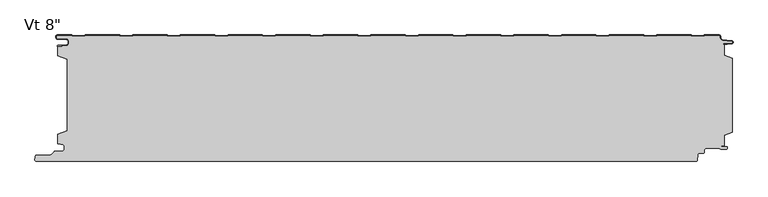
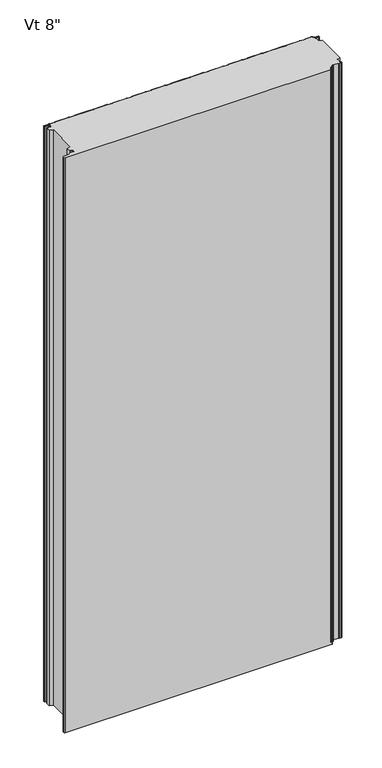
"""IFC4 building model written with IfcOpenShell, lengths in millimetres: plate geometry."""

from ifc_helpers import new_model, si_unit, point, frame, frame_2d, origin, origin_with_axes, place, context, project, spatial, polyline, circle_curve, trimmed, segment, composite_curve, outline, extrude, source, transform, mapped, element, save
from ifc_brep_helpers import plane_surface, cylinder_surface, revolved_surface, advanced_brep


def plate_d381e52e(model_context):
    return source(origin(), model_context, "Body", "SolidModel", [
        advanced_brep(
        [(-526.0754696, -175.1045169, 2400.0), (-522.7254697, -178.4545168, 2400.0), (-522.7254697, -182.8545166, 2400.0), (-526.0754696, -186.2045165, 2400.0), (-537.8863818, -186.2045165, 2400.0), (-539.0884633, -186.702435, 2400.0), (-543.8290223, -191.4429939, 2400.0), (-545.6674999, -192.2045163, 2400.0), (-566.6742572, -192.2045163, 2400.0), (-569.3639643, -194.6689835, 2400.0), (-569.7796495, -199.4159721, 2400.0), (-567.22876, -202.2, 2400.0), (487.6519047, -202.2, 2400.0), (489.5344274, -200.4750281, 2400.0), (490.2810225, -191.9438082, 2400.0), (490.8950589, -190.3647769, 2400.0), (493.2848524, -189.1909787, 2400.0), (498.6449659, -189.1909787, 2400.0), (500.4449659, -187.3909787, 2400.0), (500.4449659, -185.100418, 2400.0), (504.4449659, -181.100418, 2400.0), (523.9824407, -181.100418, 2400.0), (525.9423153, -181.9919416, 2400.0), (526.8881383, -183.0769402, 2400.0), (535.7430969, -182.7263694, 2400.0), (535.7400007, -178.5257796, 2400.0), (527.7295248, -178.0370324, 2400.0), (527.790425, -177.0388885, 2400.0), (532.327531, -177.3157133, 2400.0), (532.327531, -160.4948412, 2400.0), (545.5274637, -155.3615374, 2400.0), (545.5274637, -37.6469837, 2400.0), (532.327531, -32.5136753, 2400.0), (532.327531, -15.2947081, 2400.0), (530.7283, -15.4069152, 2400.0), (530.6583089, -14.4093676, 2400.0), (544.1268009, -13.4643757, 2400.0), (544.183689, -10.0073134, 2400.0), (529.6309436, -8.4976379, 2400.0), (525.6580508, -4.0912842, 2400.0), (525.6580508, -2.3999791, 2400.0), (524.2580508, -0.9999791, 2400.0), (501.3726136, -0.9999791, 2400.0), (500.172362, -2.2002307, 2400.0), (480.5369023, -2.2002307, 2400.0), (479.3366715, -1.0, 2400.0), (425.1891835, -1.0, 2400.0), (423.9889528, -2.2002307, 2400.0), (404.353493, -2.2002307, 2400.0), (403.1532623, -1.0, 2400.0), (349.0057743, -1.0, 2400.0), (347.8055436, -2.2002307, 2400.0), (328.1700838, -2.2002307, 2400.0), (326.9698531, -1.0, 2400.0), (272.8223651, -1.0, 2400.0), (271.6221343, -2.2002307, 2400.0), (251.9866746, -2.2002307, 2400.0), (250.7864439, -1.0, 2400.0), (196.6225175, -1.0, 2400.0), (195.4222867, -2.2002307, 2400.0), (175.786827, -2.2002307, 2400.0), (174.5865963, -1.0, 2400.0), (120.4391082, -1.0, 2400.0), (119.2388775, -2.2002307, 2400.0), (99.6034178, -2.2002307, 2400.0), (98.403187, -1.0, 2400.0), (44.255699, -1.0, 2400.0), (43.0554683, -2.2002307, 2400.0), (23.4200086, -2.2002307, 2400.0), (22.2197778, -1.0, 2400.0), (-31.9441486, -1.0, 2400.0), (-33.1443793, -2.2002307, 2400.0), (-52.779839, -2.2002307, 2400.0), (-53.9800698, -1.0, 2400.0), (-108.1275578, -1.0, 2400.0), (-109.3277885, -2.2002307, 2400.0), (-128.9632483, -2.2002307, 2400.0), (-130.163479, -1.0, 2400.0), (-184.310967, -1.0, 2400.0), (-185.5111978, -2.2002307, 2400.0), (-205.1466575, -2.2002307, 2400.0), (-206.3468882, -1.0, 2400.0), (-260.5108146, -1.0, 2400.0), (-261.7110454, -2.2002307, 2400.0), (-281.3465051, -2.2002307, 2400.0), (-282.5467358, -1.0, 2400.0), (-336.6942238, -1.0, 2400.0), (-337.8944546, -2.2002307, 2400.0), (-357.5299143, -2.2002307, 2400.0), (-358.730145, -1.0, 2400.0), (-412.8776331, -1.0, 2400.0), (-414.0778638, -2.2002307, 2400.0), (-433.7133235, -2.2002307, 2400.0), (-434.9135543, -1.0, 2400.0), (-489.0774807, -1.0, 2400.0), (-490.2777114, -2.2002307, 2400.0), (-509.9131711, -2.2002307, 2400.0), (-511.1133915, -1.0000103, 2400.0), (-533.7839771, -1.0000103, 2400.0), (-535.248695, -2.3984828, 2400.0), (-535.248695, -3.9515996, 2400.0), (-533.0386397, -6.1616549, 2400.0), (-519.5094117, -6.1616549, 2400.0), (-515.7894255, -9.881641, 2400.0), (-515.7894255, -13.5282389, 2400.0), (-519.5094219, -17.2482353, 2400.0), (-525.8545399, -17.2482353, 2400.0), (-525.6919341, -18.1704184, 2400.0), (-531.9454632, -19.2730843, 2400.0), (-533.4000002, -18.7244571, 2400.0), (-533.4000002, -33.5050578, 2400.0), (-518.4020469, -39.1301019, 2400.0), (-518.3882813, -153.3686066, 2400.0), (-533.4000002, -158.9928342, 2400.0), (-533.4000002, -174.0748213, 2400.0), (-532.5329867, -173.7060333, 2400.0), (-528.774586, -173.7060333, 2400.0), (-528.774586, -175.1045169, 2400.0), (-526.0754696, -175.1045169, 0.0), (-528.774586, -175.1045169, 0.0), (-528.774586, -173.7060333, 0.0), (-532.5329867, -173.7060333, 0.0), (-533.4000002, -174.0748213, 0.0), (-533.4000002, -158.9928342, 0.0), (-518.4020469, -153.3686066, 0.0), (-518.3882813, -39.1301019, 0.0), (-533.4000002, -33.5050578, 0.0), (-533.4000002, -18.7244571, 0.0), (-531.9454632, -19.2730843, 0.0), (-525.6919341, -18.1704184, 0.0), (-525.8545399, -17.2482353, 0.0), (-519.5094219, -17.2482353, 0.0), (-515.7894255, -13.5282389, 0.0), (-515.7894255, -9.881641, 0.0), (-519.5094117, -6.1616549, 0.0), (-533.0386397, -6.1616549, 0.0), (-535.2486951, -3.9515996, 0.0), (-535.248695, -2.3984828, 0.0), (-533.7839771, -1.0000103, 0.0), (-511.1133915, -1.0000103, 0.0), (-509.9131711, -2.2002307, 0.0), (-490.2777114, -2.2002307, 0.0), (-489.0774807, -1.0, 0.0), (-434.9135543, -1.0, 0.0), (-433.7133235, -2.2002307, 0.0), (-414.0778638, -2.2002307, 0.0), (-412.8776331, -1.0, 0.0), (-358.730145, -1.0, 0.0), (-357.5299143, -2.2002307, 0.0), (-337.8944546, -2.2002307, 0.0), (-336.6942238, -1.0, 0.0), (-282.5467358, -1.0, 0.0), (-281.3465051, -2.2002307, 0.0), (-261.7110454, -2.2002307, 0.0), (-260.5108146, -1.0, 0.0), (-206.3468882, -1.0, 0.0), (-205.1466575, -2.2002307, 0.0), (-185.5111978, -2.2002307, 0.0), (-184.310967, -1.0, 0.0), (-130.163479, -1.0, 0.0), (-128.9632483, -2.2002307, 0.0), (-109.3277885, -2.2002307, 0.0), (-108.1275578, -1.0, 0.0), (-53.9800698, -1.0, 0.0), (-52.779839, -2.2002307, 0.0), (-33.1443793, -2.2002307, 0.0), (-31.9441486, -1.0, 0.0), (22.2197778, -1.0, 0.0), (23.4200086, -2.2002307, 0.0), (43.0554683, -2.2002307, 0.0), (44.255699, -1.0, 0.0), (98.403187, -1.0, 0.0), (99.6034178, -2.2002307, 0.0), (119.2388775, -2.2002307, 0.0), (120.4391082, -1.0, 0.0), (174.5865963, -1.0, 0.0), (175.786827, -2.2002307, 0.0), (195.4222867, -2.2002307, 0.0), (196.6225175, -1.0, 0.0), (250.7864439, -1.0, 0.0), (251.9866746, -2.2002307, 0.0), (271.6221343, -2.2002307, 0.0), (272.8223651, -1.0, 0.0), (326.9698531, -1.0, 0.0), (328.1700838, -2.2002307, 0.0), (347.8055436, -2.2002307, 0.0), (349.0057743, -1.0, 0.0), (403.1532623, -1.0, 0.0), (404.353493, -2.2002307, 0.0), (423.9889528, -2.2002307, 0.0), (425.1891835, -1.0, 0.0), (479.3366715, -1.0, 0.0), (480.5369023, -2.2002307, 0.0), (500.172362, -2.2002307, 0.0), (501.3726136, -0.9999791, 0.0), (524.2580508, -0.9999791, 0.0), (525.6580508, -2.3999791, 0.0), (525.6580508, -4.0912842, 0.0), (529.6309436, -8.4976379, 0.0), (544.183689, -10.0073134, 0.0), (544.1268009, -13.4643757, 0.0), (530.6583089, -14.4093676, 0.0), (530.7283, -15.4069152, 0.0), (532.327531, -15.2947081, 0.0), (532.327531, -32.5136753, 0.0), (545.5274637, -37.6469837, 0.0), (545.5274637, -155.3615374, 0.0), (532.327531, -160.4948412, 0.0), (532.327531, -177.3157133, 0.0), (527.790425, -177.0388885, 0.0), (527.7295248, -178.0370324, 0.0), (535.7400007, -178.5257796, 0.0), (535.7430969, -182.7263694, 0.0), (526.8881383, -183.0769402, 0.0), (525.9423153, -181.9919416, 0.0), (523.9824407, -181.100418, 0.0), (504.4449659, -181.100418, 0.0), (500.4449659, -185.100418, 0.0), (500.4449659, -187.3909787, 0.0), (498.6449659, -189.1909787, 0.0), (493.2848524, -189.1909787, 0.0), (490.8950589, -190.3647769, 0.0), (490.2810225, -191.9438082, 0.0), (489.5344274, -200.4750281, 0.0), (487.6519047, -202.2, 0.0), (-567.22876, -202.2, 0.0), (-569.7796495, -199.4159721, 0.0), (-569.3639643, -194.6689835, 0.0), (-566.6742572, -192.2045163, 0.0), (-545.6674999, -192.2045163, 0.0), (-543.8290223, -191.4429939, 0.0), (-539.0884633, -186.702435, 0.0), (-537.8863818, -186.2045165, 0.0), (-526.0754696, -186.2045165, 0.0), (-522.7254697, -182.8545166, 0.0), (-522.7254697, -178.4545168, 0.0)],
        [
            (0, 1, circle_curve(frame((-526.0754696, -178.4545168, 2400.0), z_axis=(0.0, 0.0, -1.0), x_axis=(-1.0, 0.0, 0.0)), 3.3499999)),
            (1, 2),
            (2, 3, circle_curve(frame((-526.0754696, -182.8545166, 2400.0), z_axis=(0.0, 0.0, -1.0), x_axis=(-1.0, 0.0, 0.0)), 3.3499999)),
            (3, 4),
            (4, 5, circle_curve(frame((-537.8863818, -187.9045165, 2400.0), z_axis=(0.0, 0.0, 1.0), x_axis=(-1.0, 0.0, 0.0)), 1.7)),
            (5, 6),
            (6, 7, circle_curve(frame((-545.6674999, -189.6045163, 2400.0), z_axis=(0.0, 0.0, -1.0), x_axis=(-1.0, 0.0, 0.0)), 2.6)),
            (7, 8),
            (8, 9, circle_curve(frame((-566.6742572, -194.9045163, 2400.0), z_axis=(0.0, 0.0, 1.0), x_axis=(-1.0, 0.0, 0.0)), 2.7)),
            (9, 10),
            (10, 11, circle_curve(frame((-567.22876, -199.6393488, 2400.0), z_axis=(0.0, 0.0, 1.0), x_axis=(-1.0, 0.0, 0.0)), 2.5606512)),
            (11, 12),
            (12, 13, circle_curve(frame((487.6519047, -200.3102824, 2400.0), z_axis=(0.0, 0.0, 1.0), x_axis=(-1.0, 0.0, 0.0)), 1.8897176)),
            (13, 14),
            (14, 15, circle_curve(frame((493.2970771, -192.2077531, 2400.0), z_axis=(0.0, 0.0, -1.0), x_axis=(-1.0, 0.0, 0.0)), 3.027582)),
            (15, 16, circle_curve(frame((493.2751942, -192.1909631, 2400.0), z_axis=(0.0, 0.0, -1.0), x_axis=(-1.0, 0.0, 0.0)), 3.0)),
            (16, 17),
            (17, 18, circle_curve(frame((498.6449659, -187.3909787, 2400.0), z_axis=(0.0, 0.0, 1.0), x_axis=(-1.0, 0.0, 0.0)), 1.8)),
            (18, 19),
            (19, 20, circle_curve(frame((504.4449659, -185.100418, 2400.0), z_axis=(0.0, 0.0, -1.0), x_axis=(-1.0, 0.0, 0.0)), 4.0)),
            (20, 21),
            (21, 22, circle_curve(frame((523.9824407, -183.700418, 2400.0), z_axis=(0.0, 0.0, -1.0), x_axis=(-1.0, 0.0, 0.0)), 2.6)),
            (22, 23),
            (23, 24),
            (24, 25, circle_curve(frame((535.6599479, -180.6261346, 2400.0), z_axis=(0.0, 0.0, 1.0), x_axis=(-1.0, 0.0, 0.0)), 2.10188)),
            (25, 26),
            (26, 27),
            (27, 28),
            (28, 29),
            (29, 30),
            (30, 31),
            (31, 32),
            (32, 33),
            (33, 34),
            (34, 35),
            (35, 36),
            (36, 37, circle_curve(frame((544.0116441, -11.7334815, 2400.0), z_axis=(0.0, 0.0, 1.0), x_axis=(-1.0, 0.0, 0.0)), 1.7347206)),
            (37, 38),
            (38, 39, circle_curve(frame((530.0880508, -4.0912842, 2400.0), z_axis=(0.0, 0.0, -1.0), x_axis=(-1.0, 0.0, 0.0)), 4.43)),
            (39, 40),
            (40, 41, circle_curve(frame((524.2580508, -2.3999791, 2400.0), z_axis=(0.0, 0.0, 1.0), x_axis=(-1.0, 0.0, 0.0)), 1.4)),
            (41, 42),
            (42, 43),
            (43, 44),
            (44, 45),
            (45, 46),
            (46, 47),
            (47, 48),
            (48, 49),
            (49, 50),
            (50, 51),
            (51, 52),
            (52, 53),
            (53, 54),
            (54, 55),
            (55, 56),
            (56, 57),
            (57, 58),
            (58, 59),
            (59, 60),
            (60, 61),
            (61, 62),
            (62, 63),
            (63, 64),
            (64, 65),
            (65, 66),
            (66, 67),
            (67, 68),
            (68, 69),
            (69, 70),
            (70, 71),
            (71, 72),
            (72, 73),
            (73, 74),
            (74, 75),
            (75, 76),
            (76, 77),
            (77, 78),
            (78, 79),
            (79, 80),
            (80, 81),
            (81, 82),
            (82, 83),
            (83, 84),
            (84, 85),
            (85, 86),
            (86, 87),
            (87, 88),
            (88, 89),
            (89, 90),
            (90, 91),
            (91, 92),
            (92, 93),
            (93, 94),
            (94, 95),
            (95, 96),
            (96, 97),
            (97, 98),
            (98, 99, circle_curve(frame((-533.8487245, -2.3984828, 2400.0), z_axis=(0.0, 0.0, 1.0), x_axis=(-1.0, 0.0, 0.0)), 1.3999705)),
            (99, 100),
            (100, 101, circle_curve(frame((-533.0386397, -3.9515996, 2400.0), z_axis=(0.0, 0.0, 1.0), x_axis=(-1.0, 0.0, 0.0)), 2.2100553)),
            (101, 102),
            (102, 103, circle_curve(frame((-519.5094117, -9.881641, 2400.0), z_axis=(0.0, 0.0, -1.0), x_axis=(-1.0, 0.0, 0.0)), 3.7199861)),
            (103, 104),
            (104, 105, circle_curve(frame((-519.5094219, -13.5282389, 2400.0), z_axis=(0.0, 0.0, -1.0), x_axis=(-1.0, 0.0, 0.0)), 3.7199964)),
            (105, 106),
            (106, 107),
            (107, 108),
            (108, 109, circle_curve(frame((-532.2101032, -17.7722363, 2400.0), z_axis=(0.0, 0.0, -1.0), x_axis=(-1.0, 0.0, 0.0)), 1.524001)),
            (109, 110),
            (110, 111),
            (111, 112),
            (112, 113),
            (113, 114),
            (114, 115, circle_curve(frame((-532.5345014, -174.9060323, 2400.0), z_axis=(0.0, 0.0, -1.0), x_axis=(-1.0, 0.0, 0.0)), 1.2)),
            (115, 116),
            (116, 117),
            (117, 0),
            (118, 119),
            (119, 120),
            (120, 121),
            (121, 122, circle_curve(frame((-532.5345014, -174.9060323, 0.0), z_axis=(0.0, 0.0, 1.0), x_axis=(-1.0, 0.0, 0.0)), 1.2)),
            (122, 123),
            (123, 124),
            (124, 125),
            (125, 126),
            (126, 127),
            (127, 128, circle_curve(frame((-532.2101032, -17.7722363, 0.0), z_axis=(0.0, 0.0, 1.0), x_axis=(-1.0, 0.0, 0.0)), 1.524001)),
            (128, 129),
            (129, 130),
            (130, 131),
            (131, 132, circle_curve(frame((-519.5094219, -13.5282389, 0.0), z_axis=(0.0, 0.0, 1.0), x_axis=(-1.0, 0.0, 0.0)), 3.7199964)),
            (132, 133),
            (133, 134, circle_curve(frame((-519.5094117, -9.881641, 0.0), z_axis=(0.0, 0.0, 1.0), x_axis=(-1.0, 0.0, 0.0)), 3.7199861)),
            (134, 135),
            (135, 136, circle_curve(frame((-533.0386397, -3.9515996, 0.0), z_axis=(0.0, 0.0, -1.0), x_axis=(-1.0, 0.0, 0.0)), 2.2100553)),
            (136, 137),
            (137, 138, circle_curve(frame((-533.8487245, -2.3984828, 0.0), z_axis=(0.0, 0.0, -1.0), x_axis=(-1.0, 0.0, 0.0)), 1.3999705)),
            (138, 139),
            (139, 140),
            (140, 141),
            (141, 142),
            (142, 143),
            (143, 144),
            (144, 145),
            (145, 146),
            (146, 147),
            (147, 148),
            (148, 149),
            (149, 150),
            (150, 151),
            (151, 152),
            (152, 153),
            (153, 154),
            (154, 155),
            (155, 156),
            (156, 157),
            (157, 158),
            (158, 159),
            (159, 160),
            (160, 161),
            (161, 162),
            (162, 163),
            (163, 164),
            (164, 165),
            (165, 166),
            (166, 167),
            (167, 168),
            (168, 169),
            (169, 170),
            (170, 171),
            (171, 172),
            (172, 173),
            (173, 174),
            (174, 175),
            (175, 176),
            (176, 177),
            (177, 178),
            (178, 179),
            (179, 180),
            (180, 181),
            (181, 182),
            (182, 183),
            (183, 184),
            (184, 185),
            (185, 186),
            (186, 187),
            (187, 188),
            (188, 189),
            (189, 190),
            (190, 191),
            (191, 192),
            (192, 193),
            (193, 194),
            (194, 195),
            (195, 196, circle_curve(frame((524.2580508, -2.3999791, 0.0), z_axis=(0.0, 0.0, -1.0), x_axis=(-1.0, 0.0, 0.0)), 1.4)),
            (196, 197),
            (197, 198, circle_curve(frame((530.0880508, -4.0912842, 0.0), z_axis=(0.0, 0.0, 1.0), x_axis=(-1.0, 0.0, 0.0)), 4.43)),
            (198, 199),
            (199, 200, circle_curve(frame((544.0116441, -11.7334815, 0.0), z_axis=(0.0, 0.0, -1.0), x_axis=(-1.0, 0.0, 0.0)), 1.7347206)),
            (200, 201),
            (201, 202),
            (202, 203),
            (203, 204),
            (204, 205),
            (205, 206),
            (206, 207),
            (207, 208),
            (208, 209),
            (209, 210),
            (210, 211),
            (211, 212, circle_curve(frame((535.6599479, -180.6261346, 0.0), z_axis=(0.0, 0.0, -1.0), x_axis=(-1.0, 0.0, 0.0)), 2.10188)),
            (212, 213),
            (213, 214),
            (214, 215, circle_curve(frame((523.9824407, -183.700418, 0.0), z_axis=(0.0, 0.0, 1.0), x_axis=(-1.0, 0.0, 0.0)), 2.6)),
            (215, 216),
            (216, 217, circle_curve(frame((504.4449659, -185.100418, 0.0), z_axis=(0.0, 0.0, 1.0), x_axis=(-1.0, 0.0, 0.0)), 4.0)),
            (217, 218),
            (218, 219, circle_curve(frame((498.6449659, -187.3909787, 0.0), z_axis=(0.0, 0.0, -1.0), x_axis=(-1.0, 0.0, 0.0)), 1.8)),
            (219, 220),
            (220, 221, circle_curve(frame((493.2751942, -192.1909631, 0.0), z_axis=(0.0, 0.0, 1.0), x_axis=(-1.0, 0.0, 0.0)), 3.0)),
            (221, 222, circle_curve(frame((493.2970771, -192.2077531, 0.0), z_axis=(0.0, 0.0, 1.0), x_axis=(-1.0, 0.0, 0.0)), 3.027582)),
            (222, 223),
            (223, 224, circle_curve(frame((487.6519047, -200.3102824, 0.0), z_axis=(0.0, 0.0, -1.0), x_axis=(-1.0, 0.0, 0.0)), 1.8897176)),
            (224, 225),
            (225, 226, circle_curve(frame((-567.22876, -199.6393488, 0.0), z_axis=(0.0, 0.0, -1.0), x_axis=(-1.0, 0.0, 0.0)), 2.5606512)),
            (226, 227),
            (227, 228, circle_curve(frame((-566.6742572, -194.9045163, 0.0), z_axis=(0.0, 0.0, -1.0), x_axis=(-1.0, 0.0, 0.0)), 2.7)),
            (228, 229),
            (229, 230, circle_curve(frame((-545.6674999, -189.6045163, 0.0), z_axis=(0.0, 0.0, 1.0), x_axis=(-1.0, 0.0, 0.0)), 2.6)),
            (230, 231),
            (231, 232, circle_curve(frame((-537.8863818, -187.9045165, 0.0), z_axis=(0.0, 0.0, -1.0), x_axis=(-1.0, 0.0, 0.0)), 1.7)),
            (232, 233),
            (233, 234, circle_curve(frame((-526.0754696, -182.8545166, 0.0), z_axis=(0.0, 0.0, 1.0), x_axis=(-1.0, 0.0, 0.0)), 3.3499999)),
            (234, 235),
            (235, 118, circle_curve(frame((-526.0754696, -178.4545168, 0.0), z_axis=(0.0, 0.0, 1.0), x_axis=(-1.0, 0.0, 0.0)), 3.3499999)),
            (28, 208),
            (207, 29),
            (30, 206),
            (205, 31),
            (112, 124),
            (123, 113),
            (122, 114),
            (2, 234),
            (233, 3),
            (1, 235),
            (232, 4),
            (231, 5),
            (6, 230),
            (229, 7),
            (228, 8),
            (227, 9),
            (10, 226),
            (225, 11),
            (224, 12),
            (223, 13),
            (14, 222),
            (221, 15),
            (220, 16),
            (219, 17),
            (18, 218),
            (217, 19),
            (216, 20),
            (215, 21),
            (22, 214),
            (213, 23),
            (212, 24),
            (211, 25),
            (26, 210),
            (209, 27),
            (121, 115),
            (116, 120),
            (119, 117),
            (118, 0),
            (102, 134),
            (133, 103),
            (101, 135),
            (100, 136),
            (99, 137),
            (98, 138),
            (97, 139),
            (96, 140),
            (95, 141),
            (94, 142),
            (93, 143),
            (92, 144),
            (91, 145),
            (90, 146),
            (89, 147),
            (88, 148),
            (87, 149),
            (86, 150),
            (85, 151),
            (84, 152),
            (83, 153),
            (82, 154),
            (81, 155),
            (80, 156),
            (79, 157),
            (78, 158),
            (77, 159),
            (76, 160),
            (75, 161),
            (74, 162),
            (73, 163),
            (72, 164),
            (71, 165),
            (70, 166),
            (69, 167),
            (68, 168),
            (67, 169),
            (66, 170),
            (65, 171),
            (64, 172),
            (63, 173),
            (62, 174),
            (61, 175),
            (60, 176),
            (59, 177),
            (58, 178),
            (57, 179),
            (56, 180),
            (55, 181),
            (54, 182),
            (53, 183),
            (52, 184),
            (51, 185),
            (50, 186),
            (49, 187),
            (48, 188),
            (47, 189),
            (46, 190),
            (45, 191),
            (44, 192),
            (43, 193),
            (42, 194),
            (41, 195),
            (40, 196),
            (39, 197),
            (38, 198),
            (37, 199),
            (36, 200),
            (35, 201),
            (34, 202),
            (33, 203),
            (32, 204),
            (110, 126),
            (125, 111),
            (109, 127),
            (108, 128),
            (107, 129),
            (106, 130),
            (105, 131),
            (104, 132),
        ],
        [
            plane_surface(frame((-0.5362346, -202.2, 2400.0), z_axis=(0.0, 0.0, 1.0), x_axis=(0.0, -1.0, 0.0))),
            plane_surface(frame((-0.5362346, -202.2, 0.0), z_axis=(0.0, 0.0, -1.0), x_axis=(0.0, -1.0, 0.0))),
            plane_surface(frame((532.327531, -160.4948412, 2400.0), z_axis=(1.0, 0.0, 0.0), x_axis=(0.0, 0.0, -1.0))),
            plane_surface(frame((545.5274637, -153.3686066, 2400.0), z_axis=(1.0, 0.0, 0.0), x_axis=(0.0, 0.0, -1.0))),
            plane_surface(frame((545.5274637, -155.3615374, 2400.0), z_axis=(0.36244605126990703, -0.9320047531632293, 0.0), x_axis=(0.0, 0.0, -1.0))),
            plane_surface(frame((-533.4000002, -158.9928342, 2400.0), z_axis=(-0.3511231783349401, 0.9363292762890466, 0.0), x_axis=(0.0, 0.0, -1.0))),
            plane_surface(frame((-533.4000002, -174.0748213, 2400.0), z_axis=(-1.0, 0.0, 0.0), x_axis=(0.0, 0.0, -1.0))),
            revolved_surface(polyline([(-529.4254695, -182.8545166, 0.0), (-529.4254695, -182.8545166, 2400.0)]), (-526.0754696, -182.8545166, 2400.0), (0.0, 0.0, -1.0)),
            plane_surface(frame((-522.7254697, -182.8545166, 2400.0), z_axis=(-1.0, 0.0, 0.0), x_axis=(0.0, 0.0, -1.0))),
            plane_surface(frame((-537.8863818, -186.2045165, 2400.0), z_axis=(0.0, 1.0, 0.0), x_axis=(0.0, 0.0, -1.0))),
            cylinder_surface(frame((-537.8863818, -187.9045165, 2400.0), z_axis=(0.0, 0.0, 1.0), x_axis=(-1.0, 0.0, 0.0)), 1.7),
            revolved_surface(polyline([(-548.2674999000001, -189.6045163, 0.0), (-548.2674999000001, -189.6045163, 2400.0)]), (-545.6674999, -189.6045163, 2400.0), (0.0, 0.0, -1.0)),
            plane_surface(frame((-543.8290223, -191.4429939, 2400.0), z_axis=(-0.7071067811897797, 0.7071067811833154, 0.0), x_axis=(0.0, 0.0, -1.0))),
            plane_surface(frame((-566.6742572, -192.2045163, 2400.0), z_axis=(0.0, 1.0, 0.0), x_axis=(0.0, 0.0, -1.0))),
            cylinder_surface(frame((-566.6742572, -194.9045163, 2400.0), z_axis=(0.0, 0.0, 1.0), x_axis=(-1.0, 0.0, 0.0)), 2.7),
            cylinder_surface(frame((-567.22876, -199.6393488, 2400.0), z_axis=(0.0, 0.0, 1.0), x_axis=(-1.0, 0.0, 0.0)), 2.5606512),
            plane_surface(frame((-569.7796495, -199.4159721, 2400.0), z_axis=(-0.9961878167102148, 0.08723436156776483, 0.0), x_axis=(0.0, 0.0, -1.0))),
            plane_surface(frame((487.6519047, -202.2, 2400.0), z_axis=(0.0, -1.0, 0.0), x_axis=(0.0, 0.0, -1.0))),
            cylinder_surface(frame((487.6519047, -200.3102824, 2400.0), z_axis=(0.0, 0.0, 1.0), x_axis=(-1.0, 0.0, 0.0)), 1.8897176),
            revolved_surface(polyline([(490.26949510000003, -192.2077531, 0.0), (490.26949510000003, -192.2077531, 2400.0)]), (493.2970771, -192.2077531, 2400.0), (0.0, 0.0, -1.0)),
            plane_surface(frame((490.2810225, -191.9438082, 2400.0), z_axis=(0.9961925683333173, -0.08718008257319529, 0.0), x_axis=(0.0, 0.0, -1.0))),
            revolved_surface(polyline([(490.2751942, -192.1909631, 0.0), (490.2751942, -192.1909631, 2400.0)]), (493.2751942, -192.1909631, 2400.0), (0.0, 0.0, -1.0)),
            plane_surface(frame((498.6449659, -189.1909787, 2400.0), z_axis=(0.0, -1.0, 0.0), x_axis=(0.0, 0.0, -1.0))),
            plane_surface(frame((500.4449659, -185.100418, 2400.0), z_axis=(1.0, 0.0, 0.0), x_axis=(0.0, 0.0, -1.0))),
            cylinder_surface(frame((498.6449659, -187.3909787, 2400.0), z_axis=(0.0, 0.0, 1.0), x_axis=(-1.0, 0.0, 0.0)), 1.8),
            revolved_surface(polyline([(500.4449659, -185.100418, 0.0), (500.4449659, -185.100418, 2400.0)]), (504.4449659, -185.100418, 2400.0), (0.0, 0.0, -1.0)),
            plane_surface(frame((523.9824407, -181.100418, 2400.0), z_axis=(0.0, -1.0, 0.0), x_axis=(0.0, 0.0, -1.0))),
            plane_surface(frame((526.8881383, -183.0769402, 2400.0), z_axis=(-0.7537979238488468, -0.6571063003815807, 0.0), x_axis=(0.0, 0.0, -1.0))),
            revolved_surface(polyline([(521.3824407, -183.700418, 0.0), (521.3824407, -183.700418, 2400.0)]), (523.9824407, -183.700418, 2400.0), (0.0, 0.0, -1.0)),
            plane_surface(frame((535.7430969, -182.7263694, 2400.0), z_axis=(0.039559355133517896, -0.9992172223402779, 0.0), x_axis=(0.0, 0.0, -1.0))),
            cylinder_surface(frame((535.6599479, -180.6261346, 2400.0), z_axis=(0.0, 0.0, 1.0), x_axis=(-1.0, 0.0, 0.0)), 2.10188),
            plane_surface(frame((527.790425, -177.0388885, 2400.0), z_axis=(0.9981438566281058, -0.06090025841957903, 0.0), x_axis=(0.0, 0.0, -1.0))),
            plane_surface(frame((527.7295248, -178.0370324, 2400.0), z_axis=(0.06090025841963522, 0.9981438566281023, 0.0), x_axis=(0.0, 0.0, -1.0))),
            plane_surface(frame((532.327531, -177.3157133, 2400.0), z_axis=(-0.06090025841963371, -0.9981438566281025, 0.0), x_axis=(0.0, 0.0, -1.0))),
            revolved_surface(polyline([(-533.7345014, -174.9060323, 0.0), (-533.7345014, -174.9060323, 2400.0)]), (-532.5345014, -174.9060323, 2400.0), (0.0, 0.0, -1.0)),
            plane_surface(frame((-528.774586, -175.1045169, 2400.0), z_axis=(-1.0, 0.0, 0.0), x_axis=(0.0, 0.0, -1.0))),
            plane_surface(frame((-528.774586, -173.7060333, 2400.0), z_axis=(0.0, -1.0, 0.0), x_axis=(0.0, 0.0, -1.0))),
            plane_surface(frame((-526.0754696, -175.1045169, 2400.0), z_axis=(0.0, -1.0, 0.0), x_axis=(0.0, 0.0, -1.0))),
            revolved_surface(polyline([(-529.4254695, -178.4545168, 0.0), (-529.4254695, -178.4545168, 2400.0)]), (-526.0754696, -178.4545168, 2400.0), (0.0, 0.0, -1.0)),
            revolved_surface(polyline([(-523.2293978, -9.881641, 0.0), (-523.2293978, -9.881641, 2400.0)]), (-519.5094117, -9.881641, 2400.0), (0.0, 0.0, -1.0)),
            plane_surface(frame((-519.5094117, -6.1616549, 2400.0), z_axis=(0.0, -1.0, 0.0), x_axis=(0.0, 0.0, -1.0))),
            cylinder_surface(frame((-533.0386397, -3.9515996, 2400.0), z_axis=(0.0, 0.0, 1.0), x_axis=(-1.0, 0.0, 0.0)), 2.2100553),
            plane_surface(frame((-535.248695, -3.9515996, 2400.0), z_axis=(-1.0, 0.0, 0.0), x_axis=(0.0, 0.0, -1.0))),
            cylinder_surface(frame((-533.8487245, -2.3984828, 2400.0), z_axis=(0.0, 0.0, 1.0), x_axis=(-1.0, 0.0, 0.0)), 1.3999705),
            plane_surface(frame((-533.7839771, -1.0000103, 2400.0), z_axis=(0.0, 1.0, 0.0), x_axis=(0.0, 0.0, -1.0))),
            plane_surface(frame((-511.1133915, -1.0000103, 2400.0), z_axis=(0.7071067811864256, 0.7071067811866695, 0.0), x_axis=(0.0, 0.0, -1.0))),
            plane_surface(frame((-500.0954413, -2.2002307, 2400.0), z_axis=(0.0, 1.0, 0.0), x_axis=(0.0, 0.0, -1.0))),
            plane_surface(frame((-490.2777114, -2.2002307, 2400.0), z_axis=(-0.7071067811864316, 0.7071067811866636, 0.0), x_axis=(0.0, 0.0, -1.0))),
            plane_surface(frame((-489.0774807, -1.0, 2400.0), z_axis=(0.0, 1.0, 0.0), x_axis=(0.0, 0.0, -1.0))),
            plane_surface(frame((-434.9135543, -1.0, 2400.0), z_axis=(0.7071067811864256, 0.7071067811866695, 0.0), x_axis=(0.0, 0.0, -1.0))),
            plane_surface(frame((-423.8955937, -2.2002307, 2400.0), z_axis=(0.0, 1.0, 0.0), x_axis=(0.0, 0.0, -1.0))),
            plane_surface(frame((-414.0778638, -2.2002307, 2400.0), z_axis=(-0.7071067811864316, 0.7071067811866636, 0.0), x_axis=(0.0, 0.0, -1.0))),
            plane_surface(frame((-412.8776331, -1.0, 2400.0), z_axis=(0.0, 1.0, 0.0), x_axis=(0.0, 0.0, -1.0))),
            plane_surface(frame((-358.730145, -1.0, 2400.0), z_axis=(0.7071067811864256, 0.7071067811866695, 0.0), x_axis=(0.0, 0.0, -1.0))),
            plane_surface(frame((-347.7121844, -2.2002307, 2400.0), z_axis=(0.0, 1.0, 0.0), x_axis=(0.0, 0.0, -1.0))),
            plane_surface(frame((-337.8944546, -2.2002307, 2400.0), z_axis=(-0.7071067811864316, 0.7071067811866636, 0.0), x_axis=(0.0, 0.0, -1.0))),
            plane_surface(frame((-336.6942238, -1.0, 2400.0), z_axis=(0.0, 1.0, 0.0), x_axis=(0.0, 0.0, -1.0))),
            plane_surface(frame((-282.5467358, -1.0, 2400.0), z_axis=(0.7071067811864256, 0.7071067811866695, 0.0), x_axis=(0.0, 0.0, -1.0))),
            plane_surface(frame((-271.5287752, -2.2002307, 2400.0), z_axis=(0.0, 1.0, 0.0), x_axis=(0.0, 0.0, -1.0))),
            plane_surface(frame((-261.7110454, -2.2002307, 2400.0), z_axis=(-0.7071067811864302, 0.7071067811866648, 0.0), x_axis=(0.0, 0.0, -1.0))),
            plane_surface(frame((-260.5108146, -1.0, 2400.0), z_axis=(0.0, 1.0, 0.0), x_axis=(0.0, 0.0, -1.0))),
            plane_surface(frame((-206.3468882, -1.0, 2400.0), z_axis=(0.7071067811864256, 0.7071067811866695, 0.0), x_axis=(0.0, 0.0, -1.0))),
            plane_surface(frame((-195.3289276, -2.2002307, 2400.0), z_axis=(0.0, 1.0, 0.0), x_axis=(0.0, 0.0, -1.0))),
            plane_surface(frame((-185.5111978, -2.2002307, 2400.0), z_axis=(-0.7071067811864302, 0.7071067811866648, 0.0), x_axis=(0.0, 0.0, -1.0))),
            plane_surface(frame((-184.310967, -1.0, 2400.0), z_axis=(0.0, 1.0, 0.0), x_axis=(0.0, 0.0, -1.0))),
            plane_surface(frame((-130.163479, -1.0, 2400.0), z_axis=(0.7071067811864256, 0.7071067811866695, 0.0), x_axis=(0.0, 0.0, -1.0))),
            plane_surface(frame((-119.1455184, -2.2002307, 2400.0), z_axis=(0.0, 1.0, 0.0), x_axis=(0.0, 0.0, -1.0))),
            plane_surface(frame((-109.3277885, -2.2002307, 2400.0), z_axis=(-0.7071067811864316, 0.7071067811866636, 0.0), x_axis=(0.0, 0.0, -1.0))),
            plane_surface(frame((-108.1275578, -1.0, 2400.0), z_axis=(0.0, 1.0, 0.0), x_axis=(0.0, 0.0, -1.0))),
            plane_surface(frame((-53.9800698, -1.0, 2400.0), z_axis=(0.7071067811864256, 0.7071067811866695, 0.0), x_axis=(0.0, 0.0, -1.0))),
            plane_surface(frame((-42.9621092, -2.2002307, 2400.0), z_axis=(0.0, 1.0, 0.0), x_axis=(0.0, 0.0, -1.0))),
            plane_surface(frame((-33.1443793, -2.2002307, 2400.0), z_axis=(-0.707106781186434, 0.707106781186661, 0.0), x_axis=(0.0, 0.0, -1.0))),
            plane_surface(frame((-31.9441486, -1.0, 2400.0), z_axis=(0.0, 1.0, 0.0), x_axis=(0.0, 0.0, -1.0))),
            plane_surface(frame((22.2197778, -1.0, 2400.0), z_axis=(0.7071067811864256, 0.7071067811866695, 0.0), x_axis=(0.0, 0.0, -1.0))),
            plane_surface(frame((33.2377384, -2.2002307, 2400.0), z_axis=(0.0, 1.0, 0.0), x_axis=(0.0, 0.0, -1.0))),
            plane_surface(frame((43.0554683, -2.2002307, 2400.0), z_axis=(-0.7071067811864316, 0.7071067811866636, 0.0), x_axis=(0.0, 0.0, -1.0))),
            plane_surface(frame((44.255699, -1.0, 2400.0), z_axis=(0.0, 1.0, 0.0), x_axis=(0.0, 0.0, -1.0))),
            plane_surface(frame((98.403187, -1.0, 2400.0), z_axis=(0.7071067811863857, 0.7071067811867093, 0.0), x_axis=(0.0, 0.0, -1.0))),
            plane_surface(frame((109.4211476, -2.2002307, 2400.0), z_axis=(0.0, 1.0, 0.0), x_axis=(0.0, 0.0, -1.0))),
            plane_surface(frame((119.2388775, -2.2002307, 2400.0), z_axis=(-0.7071067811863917, 0.7071067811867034, 0.0), x_axis=(0.0, 0.0, -1.0))),
            plane_surface(frame((120.4391082, -1.0, 2400.0), z_axis=(0.0, 1.0, 0.0), x_axis=(0.0, 0.0, -1.0))),
            plane_surface(frame((174.5865963, -1.0, 2400.0), z_axis=(0.7071067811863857, 0.7071067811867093, 0.0), x_axis=(0.0, 0.0, -1.0))),
            plane_surface(frame((185.6045569, -2.2002307, 2400.0), z_axis=(0.0, 1.0, 0.0), x_axis=(0.0, 0.0, -1.0))),
            plane_surface(frame((195.4222867, -2.2002307, 2400.0), z_axis=(-0.7071067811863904, 0.7071067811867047, 0.0), x_axis=(0.0, 0.0, -1.0))),
            plane_surface(frame((196.6225175, -1.0, 2400.0), z_axis=(0.0, 1.0, 0.0), x_axis=(0.0, 0.0, -1.0))),
            plane_surface(frame((250.7864439, -1.0, 2400.0), z_axis=(0.7071067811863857, 0.7071067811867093, 0.0), x_axis=(0.0, 0.0, -1.0))),
            plane_surface(frame((261.8044045, -2.2002307, 2400.0), z_axis=(0.0, 1.0, 0.0), x_axis=(0.0, 0.0, -1.0))),
            plane_surface(frame((271.6221343, -2.2002307, 2400.0), z_axis=(-0.7071067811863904, 0.7071067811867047, 0.0), x_axis=(0.0, 0.0, -1.0))),
            plane_surface(frame((272.8223651, -1.0, 2400.0), z_axis=(0.0, 1.0, 0.0), x_axis=(0.0, 0.0, -1.0))),
            plane_surface(frame((326.9698531, -1.0, 2400.0), z_axis=(0.7071067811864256, 0.7071067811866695, 0.0), x_axis=(0.0, 0.0, -1.0))),
            plane_surface(frame((337.9878137, -2.2002307, 2400.0), z_axis=(0.0, 1.0, 0.0), x_axis=(0.0, 0.0, -1.0))),
            plane_surface(frame((347.8055436, -2.2002307, 2400.0), z_axis=(-0.7071067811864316, 0.7071067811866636, 0.0), x_axis=(0.0, 0.0, -1.0))),
            plane_surface(frame((349.0057743, -1.0, 2400.0), z_axis=(0.0, 1.0, 0.0), x_axis=(0.0, 0.0, -1.0))),
            plane_surface(frame((403.1532623, -1.0, 2400.0), z_axis=(0.7071067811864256, 0.7071067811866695, 0.0), x_axis=(0.0, 0.0, -1.0))),
            plane_surface(frame((414.1712229, -2.2002307, 2400.0), z_axis=(0.0, 1.0, 0.0), x_axis=(0.0, 0.0, -1.0))),
            plane_surface(frame((423.9889528, -2.2002307, 2400.0), z_axis=(-0.7071067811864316, 0.7071067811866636, 0.0), x_axis=(0.0, 0.0, -1.0))),
            plane_surface(frame((425.1891835, -1.0, 2400.0), z_axis=(0.0, 1.0, 0.0), x_axis=(0.0, 0.0, -1.0))),
            plane_surface(frame((479.3366715, -1.0, 2400.0), z_axis=(0.7071067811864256, 0.7071067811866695, 0.0), x_axis=(0.0, 0.0, -1.0))),
            plane_surface(frame((490.3546321, -2.2002307, 2400.0), z_axis=(0.0, 1.0, 0.0), x_axis=(0.0, 0.0, -1.0))),
            plane_surface(frame((500.172362, -2.2002307, 2400.0), z_axis=(-0.7071067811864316, 0.7071067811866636, 0.0), x_axis=(0.0, 0.0, -1.0))),
            plane_surface(frame((501.3726136, -0.9999791, 2400.0), z_axis=(0.0, 1.0, 0.0), x_axis=(0.0, 0.0, -1.0))),
            cylinder_surface(frame((524.2580508, -2.3999791, 2400.0), z_axis=(0.0, 0.0, 1.0), x_axis=(-1.0, 0.0, 0.0)), 1.4),
            plane_surface(frame((525.6580508, -2.3999791, 2400.0), z_axis=(1.0, 0.0, 0.0), x_axis=(0.0, 0.0, -1.0))),
            revolved_surface(polyline([(525.6580508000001, -4.0912842, 0.0), (525.6580508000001, -4.0912842, 2400.0)]), (530.0880508, -4.0912842, 2400.0), (0.0, 0.0, -1.0)),
            plane_surface(frame((529.6309436, -8.4976379, 2400.0), z_axis=(0.10318446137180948, 0.9946622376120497, 0.0), x_axis=(0.0, 0.0, -1.0))),
            cylinder_surface(frame((544.0116441, -11.7334815, 2400.0), z_axis=(0.0, 0.0, 1.0), x_axis=(-1.0, 0.0, 0.0)), 1.7347206),
            plane_surface(frame((544.1268009, -13.4643757, 2400.0), z_axis=(0.06999109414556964, -0.997547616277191, 0.0), x_axis=(0.0, 0.0, -1.0))),
            plane_surface(frame((530.6583089, -14.4093676, 2400.0), z_axis=(0.9975476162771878, 0.06999109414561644, 0.0), x_axis=(0.0, 0.0, -1.0))),
            plane_surface(frame((530.7283, -15.4069152, 2400.0), z_axis=(-0.06999109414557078, 0.997547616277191, 0.0), x_axis=(0.0, 0.0, -1.0))),
            plane_surface(frame((532.327531, -15.2947081, 2400.0), z_axis=(1.0, 0.0, 0.0), x_axis=(0.0, 0.0, -1.0))),
            plane_surface(frame((532.327531, -32.5136753, 2400.0), z_axis=(0.3624463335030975, 0.9320046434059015, 0.0), x_axis=(0.0, 0.0, -1.0))),
            plane_surface(frame((-518.4020469, -39.1301019, 2400.0), z_axis=(-0.35116785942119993, -0.9363125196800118, 0.0), x_axis=(0.0, 0.0, -1.0))),
            plane_surface(frame((-533.4000002, -33.5050578, 2400.0), z_axis=(-1.0, 0.0, 0.0), x_axis=(0.0, 0.0, -1.0))),
            revolved_surface(polyline([(-533.7341042, -17.7722363, 0.0), (-533.7341042, -17.7722363, 2400.0)]), (-532.2101032, -17.7722363, 2400.0), (0.0, 0.0, -1.0)),
            plane_surface(frame((-531.9454632, -19.2730843, 2400.0), z_axis=(-0.17364817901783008, 0.9848077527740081, 0.0), x_axis=(0.0, 0.0, -1.0))),
            plane_surface(frame((-525.6919341, -18.1704184, 2400.0), z_axis=(-0.9848077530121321, -0.17364817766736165, 0.0), x_axis=(0.0, 0.0, -1.0))),
            plane_surface(frame((-525.8545399, -17.2482353, 2400.0), z_axis=(0.0, 1.0, 0.0), x_axis=(0.0, 0.0, -1.0))),
            revolved_surface(polyline([(-523.2294183, -13.5282389, 0.0), (-523.2294183, -13.5282389, 2400.0)]), (-519.5094219, -13.5282389, 2400.0), (0.0, 0.0, -1.0)),
            plane_surface(frame((-515.7894255, -13.5282389, 2400.0), z_axis=(-1.0, 0.0, 0.0), x_axis=(0.0, 0.0, -1.0))),
            plane_surface(frame((-518.3882813, -153.3686066, 2400.0), z_axis=(-1.0, 0.0, 0.0), x_axis=(0.0, 0.0, -1.0))),
        ],
        [
            (0, [[1, 2, 3, 4, 5, 6, 7, 8, 9, 10, 11, 12, 13, 14, 15, 16, 17, 18, 19, 20, 21, 22, 23, 24, 25, 26, 27, 28, 29, 30, 31, 32, 33, 34, 35, 36, 37, 38, 39, 40, 41, 42, 43, 44, 45, 46, 47, 48, 49, 50, 51, 52, 53, 54, 55, 56, 57, 58, 59, 60, 61, 62, 63, 64, 65, 66, 67, 68, 69, 70, 71, 72, 73, 74, 75, 76, 77, 78, 79, 80, 81, 82, 83, 84, 85, 86, 87, 88, 89, 90, 91, 92, 93, 94, 95, 96, 97, 98, 99, 100, 101, 102, 103, 104, 105, 106, 107, 108, 109, 110, 111, 112, 113, 114, 115, 116, 117, 118]]),
            (1, [[119, 120, 121, 122, 123, 124, 125, 126, 127, 128, 129, 130, 131, 132, 133, 134, 135, 136, 137, 138, 139, 140, 141, 142, 143, 144, 145, 146, 147, 148, 149, 150, 151, 152, 153, 154, 155, 156, 157, 158, 159, 160, 161, 162, 163, 164, 165, 166, 167, 168, 169, 170, 171, 172, 173, 174, 175, 176, 177, 178, 179, 180, 181, 182, 183, 184, 185, 186, 187, 188, 189, 190, 191, 192, 193, 194, 195, 196, 197, 198, 199, 200, 201, 202, 203, 204, 205, 206, 207, 208, 209, 210, 211, 212, 213, 214, 215, 216, 217, 218, 219, 220, 221, 222, 223, 224, 225, 226, 227, 228, 229, 230, 231, 232, 233, 234, 235, 236]]),
            (2, [[237, -208, 238, -29]]),
            (3, [[239, -206, 240, -31]]),
            (4, [[-238, -207, -239, -30]]),
            (5, [[241, -124, 242, -113]]),
            (6, [[-242, -123, 243, -114]]),
            (7, [[244, -234, 245, -3]]),
            (8, [[246, -235, -244, -2]]),
            (9, [[-245, -233, 247, -4]]),
            (10, [[-247, -232, 248, -5]]),
            (11, [[249, -230, 250, -7]]),
            (12, [[-248, -231, -249, -6]]),
            (13, [[-250, -229, 251, -8]]),
            (14, [[-251, -228, 252, -9]]),
            (15, [[253, -226, 254, -11]]),
            (16, [[-252, -227, -253, -10]]),
            (17, [[-254, -225, 255, -12]]),
            (18, [[-255, -224, 256, -13]]),
            (19, [[257, -222, 258, -15]]),
            (20, [[-256, -223, -257, -14]]),
            (21, [[-258, -221, 259, -16]]),
            (22, [[-259, -220, 260, -17]]),
            (23, [[261, -218, 262, -19]]),
            (24, [[-260, -219, -261, -18]]),
            (25, [[-262, -217, 263, -20]]),
            (26, [[-263, -216, 264, -21]]),
            (27, [[265, -214, 266, -23]]),
            (28, [[-264, -215, -265, -22]]),
            (29, [[-266, -213, 267, -24]]),
            (30, [[-267, -212, 268, -25]]),
            (31, [[269, -210, 270, -27]]),
            (32, [[-268, -211, -269, -26]]),
            (33, [[-270, -209, -237, -28]]),
            (34, [[-243, -122, 271, -115]]),
            (35, [[272, -120, 273, -117]]),
            (36, [[-271, -121, -272, -116]]),
            (37, [[-273, -119, 274, -118]]),
            (38, [[-274, -236, -246, -1]]),
            (39, [[275, -134, 276, -103]]),
            (40, [[277, -135, -275, -102]]),
            (41, [[278, -136, -277, -101]]),
            (42, [[279, -137, -278, -100]]),
            (43, [[280, -138, -279, -99]]),
            (44, [[281, -139, -280, -98]]),
            (45, [[282, -140, -281, -97]]),
            (46, [[283, -141, -282, -96]]),
            (47, [[284, -142, -283, -95]]),
            (48, [[285, -143, -284, -94]]),
            (49, [[286, -144, -285, -93]]),
            (50, [[287, -145, -286, -92]]),
            (51, [[288, -146, -287, -91]]),
            (52, [[289, -147, -288, -90]]),
            (53, [[290, -148, -289, -89]]),
            (54, [[291, -149, -290, -88]]),
            (55, [[292, -150, -291, -87]]),
            (56, [[293, -151, -292, -86]]),
            (57, [[294, -152, -293, -85]]),
            (58, [[295, -153, -294, -84]]),
            (59, [[296, -154, -295, -83]]),
            (60, [[297, -155, -296, -82]]),
            (61, [[298, -156, -297, -81]]),
            (62, [[299, -157, -298, -80]]),
            (63, [[300, -158, -299, -79]]),
            (64, [[301, -159, -300, -78]]),
            (65, [[302, -160, -301, -77]]),
            (66, [[303, -161, -302, -76]]),
            (67, [[304, -162, -303, -75]]),
            (68, [[305, -163, -304, -74]]),
            (69, [[306, -164, -305, -73]]),
            (70, [[307, -165, -306, -72]]),
            (71, [[308, -166, -307, -71]]),
            (72, [[309, -167, -308, -70]]),
            (73, [[310, -168, -309, -69]]),
            (74, [[311, -169, -310, -68]]),
            (75, [[312, -170, -311, -67]]),
            (76, [[313, -171, -312, -66]]),
            (77, [[314, -172, -313, -65]]),
            (78, [[315, -173, -314, -64]]),
            (79, [[316, -174, -315, -63]]),
            (80, [[317, -175, -316, -62]]),
            (81, [[318, -176, -317, -61]]),
            (82, [[319, -177, -318, -60]]),
            (83, [[320, -178, -319, -59]]),
            (84, [[321, -179, -320, -58]]),
            (85, [[322, -180, -321, -57]]),
            (86, [[323, -181, -322, -56]]),
            (87, [[324, -182, -323, -55]]),
            (88, [[325, -183, -324, -54]]),
            (89, [[326, -184, -325, -53]]),
            (90, [[327, -185, -326, -52]]),
            (91, [[328, -186, -327, -51]]),
            (92, [[329, -187, -328, -50]]),
            (93, [[330, -188, -329, -49]]),
            (94, [[331, -189, -330, -48]]),
            (95, [[332, -190, -331, -47]]),
            (96, [[333, -191, -332, -46]]),
            (97, [[334, -192, -333, -45]]),
            (98, [[335, -193, -334, -44]]),
            (99, [[336, -194, -335, -43]]),
            (100, [[337, -195, -336, -42]]),
            (101, [[338, -196, -337, -41]]),
            (102, [[339, -197, -338, -40]]),
            (103, [[340, -198, -339, -39]]),
            (104, [[341, -199, -340, -38]]),
            (105, [[342, -200, -341, -37]]),
            (106, [[343, -201, -342, -36]]),
            (107, [[344, -202, -343, -35]]),
            (108, [[345, -203, -344, -34]]),
            (109, [[346, -204, -345, -33]]),
            (110, [[-240, -205, -346, -32]]),
            (111, [[347, -126, 348, -111]]),
            (112, [[349, -127, -347, -110]]),
            (113, [[350, -128, -349, -109]]),
            (114, [[351, -129, -350, -108]]),
            (115, [[352, -130, -351, -107]]),
            (116, [[353, -131, -352, -106]]),
            (117, [[354, -132, -353, -105]]),
            (118, [[-276, -133, -354, -104]]),
            (119, [[-348, -125, -241, -112]]),
        ],
    ),
        extrude(outline(composite_curve([segment(polyline([(-533.7639404, -1.03e-05), (-510.699178, -1.03e-05), (-509.4989576, -1.2002307), (-490.691925, -1.2002307), (-489.4916942, 0.0), (-434.4993407, 0.0), (-433.29911, -1.2002307), (-414.4920774, -1.2002307), (-413.2918466, 0.0), (-358.3159315, 0.0), (-357.1157007, -1.2002307), (-338.3086681, -1.2002307), (-337.1084374, 0.0), (-282.1325223, 0.0), (-280.9322915, -1.2002307), (-262.1252589, -1.2002307), (-260.9250282, 0.0), (-205.9326747, 0.0), (-204.7324439, -1.2002307), (-185.9254113, -1.2002307), (-184.7251806, 0.0), (-129.7492654, 0.0), (-128.5490347, -1.2002307), (-109.7420021, -1.2002307), (-108.5417714, 0.0), (-53.5658562, 0.0), (-52.3656255, -1.2002307), (-33.5585929, -1.2002307), (-32.3583621, 0.0), (22.6339914, 0.0), (23.8342221, -1.2002307), (42.6412547, -1.2002307), (43.8414855, 0.0), (98.8174006, 0.0), (100.0176313, -1.2002307), (118.8246639, -1.2002307), (120.0248947, 0.0), (175.0008098, 0.0), (176.2010406, -1.2002307), (195.0080732, -1.2002307), (196.2083039, 0.0), (251.2006574, 0.0), (252.4008882, -1.2002307), (271.2079208, -1.2002307), (272.4081515, 0.0), (327.3840666, 0.0), (328.5842974, -1.2002307), (347.39133, -1.2002307), (348.5915607, 0.0), (403.5674759, 0.0), (404.7677066, -1.2002307), (423.5747392, -1.2002307), (424.77497, 0.0), (479.7508851, 0.0), (480.9511158, -1.2002307), (499.7581484, -1.2002307), (500.9584001, 2.09e-05), (524.2580508, 2.09e-05)]), True, "CONTINUOUS"), segment(trimmed(circle_curve(frame_2d((524.2580508, -2.3999791)), 2.4), [point((524.2580508, 2.09e-05))], [point((526.6580508, -2.3999791))], False, "CARTESIAN"), True, "CONTINUOUS"), segment(polyline([(526.6580508, -2.3999791), (526.6580508, -4.0912842)]), True, "CONTINUOUS"), segment(trimmed(circle_curve(frame_2d((530.0880508, -4.0912842)), 3.43), [point((526.6580508, -4.0912842))], [point((529.7341281, -7.5029757))], True, "CARTESIAN"), True, "CONTINUOUS"), segment(polyline([(529.7341281, -7.5029757), (544.2850973, -9.0124669)]), True, "CONTINUOUS"), segment(trimmed(circle_curve(frame_2d((544.0116441, -11.7334815)), 2.7347206), [point((544.2850973, -9.0124669))], [point((544.1951928, -14.4620355))], False, "CARTESIAN"), True, "CONTINUOUS"), segment(polyline([(544.1951928, -14.4620355), (530.7283, -15.4069152), (530.6583089, -14.4093676), (544.1268009, -13.4643757)]), True, "CONTINUOUS"), segment(trimmed(circle_curve(frame_2d((544.0116441, -11.7334815)), 1.7347206), [point((544.1268009, -13.4643757))], [point((544.183689, -10.0073134))], True, "CARTESIAN"), True, "CONTINUOUS"), segment(polyline([(544.183689, -10.0073134), (529.6309436, -8.4976379)]), True, "CONTINUOUS"), segment(trimmed(circle_curve(frame_2d((530.0880508, -4.0912842)), 4.43), [point((529.6309436, -8.4976379))], [point((525.6580508, -4.0912842))], False, "CARTESIAN"), True, "CONTINUOUS"), segment(polyline([(525.6580508, -4.0912842), (525.6580508, -2.3999791)]), True, "CONTINUOUS"), segment(trimmed(circle_curve(frame_2d((524.2580508, -2.3999791)), 1.4), [point((525.6580508, -2.3999791))], [point((524.2580508, -0.9999791))], True, "CARTESIAN"), True, "CONTINUOUS"), segment(polyline([(524.2580508, -0.9999791), (501.3726136, -0.9999791), (500.172362, -2.2002307), (480.5369023, -2.2002307), (479.3366715, -1.0), (425.1891835, -1.0), (423.9889528, -2.2002307), (404.353493, -2.2002307), (403.1532623, -1.0), (349.0057743, -1.0), (347.8055436, -2.2002307), (328.1700838, -2.2002307), (326.9698531, -1.0), (272.8223651, -1.0), (271.6221343, -2.2002307), (251.9866746, -2.2002307), (250.7864439, -1.0), (196.6225175, -1.0), (195.4222867, -2.2002307), (175.786827, -2.2002307), (174.5865963, -1.0), (120.4391082, -1.0), (119.2388775, -2.2002307), (99.6034178, -2.2002307), (98.403187, -1.0), (44.255699, -1.0), (43.0554683, -2.2002307), (23.4200086, -2.2002307), (22.2197778, -1.0), (-31.9441486, -1.0), (-33.1443793, -2.2002307), (-52.779839, -2.2002307), (-53.9800698, -1.0), (-108.1275578, -1.0), (-109.3277885, -2.2002307), (-128.9632483, -2.2002307), (-130.163479, -1.0), (-184.310967, -1.0), (-185.5111978, -2.2002307), (-205.1466575, -2.2002307), (-206.3468882, -1.0), (-260.5108146, -1.0), (-261.7110454, -2.2002307), (-281.3465051, -2.2002307), (-282.5467358, -1.0), (-336.6942238, -1.0), (-337.8944546, -2.2002307), (-357.5299143, -2.2002307), (-358.730145, -1.0), (-412.8776331, -1.0), (-414.0778638, -2.2002307), (-433.7133235, -2.2002307), (-434.9135543, -1.0), (-489.0774807, -1.0), (-490.2777114, -2.2002307), (-509.9131711, -2.2002307), (-511.1133915, -1.0000103), (-533.7839771, -1.0000103)]), True, "CONTINUOUS"), segment(trimmed(circle_curve(frame_2d((-533.8487245, -2.3984828)), 1.3999705), [point((-533.7839771, -1.0000103))], [point((-535.248695, -2.3984828))], True, "CARTESIAN"), True, "CONTINUOUS"), segment(polyline([(-535.248695, -2.3984828), (-535.248695, -3.9515996)]), True, "CONTINUOUS"), segment(trimmed(circle_curve(frame_2d((-533.0386397, -3.9515996)), 2.2100553), [point((-535.248695, -3.9515996))], [point((-533.0386397, -6.1616549))], True, "CARTESIAN"), True, "CONTINUOUS"), segment(polyline([(-533.0386397, -6.1616549), (-519.5094117, -6.1616549)]), True, "CONTINUOUS"), segment(trimmed(circle_curve(frame_2d((-519.5094117, -9.881641)), 3.7199861), [point((-519.5094117, -6.1616549))], [point((-515.7894255, -9.881641))], False, "CARTESIAN"), True, "CONTINUOUS"), segment(polyline([(-515.7894255, -9.881641), (-515.7894255, -13.5282389)]), True, "CONTINUOUS"), segment(trimmed(circle_curve(frame_2d((-519.5094219, -13.5282389)), 3.7199964), [point((-515.7894255, -13.5282389))], [point((-519.5094219, -17.2482353))], False, "CARTESIAN"), True, "CONTINUOUS"), segment(polyline([(-519.5094219, -17.2482353), (-525.8545399, -17.2482353), (-525.6919341, -18.1704184), (-531.9454632, -19.2730843)]), True, "CONTINUOUS"), segment(trimmed(circle_curve(frame_2d((-532.2101032, -17.7722363)), 1.524001), [point((-531.9454632, -19.2730843))], [point((-532.2101032, -16.2482353))], False, "CARTESIAN"), True, "CONTINUOUS"), segment(polyline([(-532.2101032, -16.2482353), (-519.5094219, -16.2482353)]), True, "CONTINUOUS"), segment(trimmed(circle_curve(frame_2d((-519.5094219, -13.5282389)), 2.7199964), [point((-519.5094219, -16.2482353))], [point((-516.7894255, -13.5282389))], True, "CARTESIAN"), True, "CONTINUOUS"), segment(polyline([(-516.7894255, -13.5282389), (-516.7894255, -9.881641)]), True, "CONTINUOUS"), segment(trimmed(circle_curve(frame_2d((-519.5094117, -9.881641)), 2.7199861), [point((-516.7894255, -9.881641))], [point((-519.5094117, -7.1616549))], True, "CARTESIAN"), True, "CONTINUOUS"), segment(polyline([(-519.5094117, -7.1616549), (-533.0386397, -7.1616549)]), True, "CONTINUOUS"), segment(trimmed(circle_curve(frame_2d((-533.0386397, -3.9515996)), 3.2100553), [point((-533.0386397, -7.1616549))], [point((-536.2486951, -3.9515996))], False, "CARTESIAN"), True, "CONTINUOUS"), segment(polyline([(-536.2486951, -3.9515996), (-536.248695, -2.3984828)]), True, "CONTINUOUS"), segment(trimmed(circle_curve(frame_2d((-533.8487245, -2.3984828)), 2.3999705), [point((-536.248695, -2.3984828))], [point((-533.7639404, -1.03e-05))], False, "CARTESIAN"), True, "CONTINUOUS")], self_intersect=False)), origin_with_axes(), (0.0, 0.0, 1.0), 2400.0),
    ])


if __name__ == "__main__":
    model = new_model("IFC4")
    model_context = context("Model", 3, world=origin())
    ifc_project = project(units=[si_unit("LENGTHUNIT", "METRE", prefix="MILLI")], contexts=[model_context])
    site = spatial("IfcSite", under=ifc_project)
    building = spatial("IfcBuilding", under=site)
    placement = place(None, origin())
    plate_shape = plate_d381e52e(model_context)
    element("IfcPlate", 1, ObjectType="KIP-42-KRHF-R19-CP-Vt-FL_SL : Vt 8\"", at=placement, inside=building, context=model_context, shape_type="MappedRepresentation", body=[
        mapped(plate_shape, transform((0.0, 0.0, 0.0), x_axis=(1.0, 0.0, 0.0), y_axis=(0.0, 1.0, 0.0), z_axis=(0.0, 0.0, 1.0))),
    ])
    save(model, "model.ifc")
